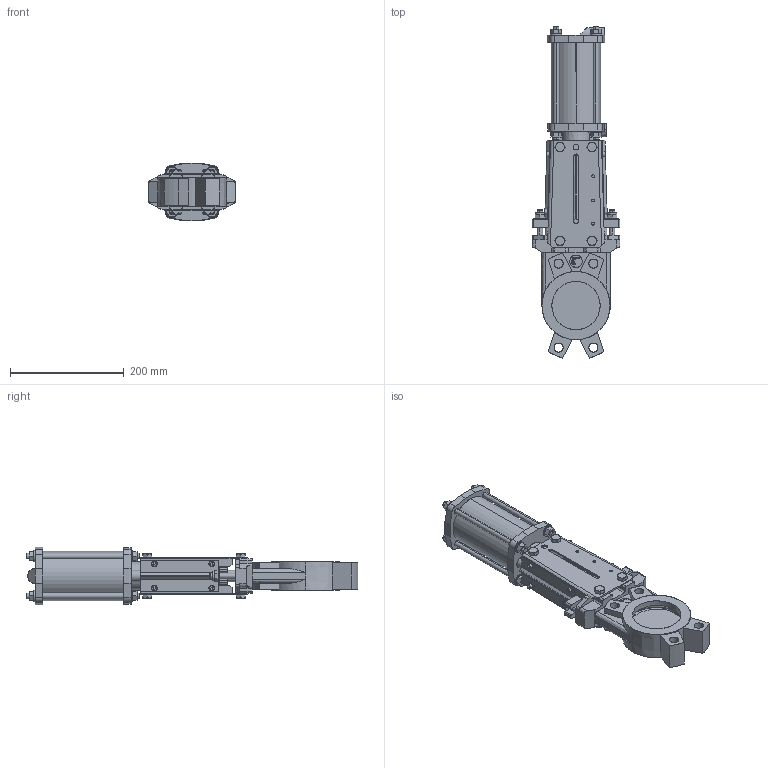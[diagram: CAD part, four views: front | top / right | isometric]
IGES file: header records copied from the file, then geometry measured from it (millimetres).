
Start section: SolidWorks IGES file using analytic representation for surfaces
Global section: file name: D:\part\3D Projects\VG-PNEUMATIC ACTUATOR(DN50-600)\VG P DN80\VG P DN80.IGS; native system: SolidWorks 2009; preprocessor: SolidWorks 2009; author: zhixin.zheng; date: 100313.104718; units: millimetre
Bounding box: 154 x 584.17 x 102 mm (x, y, z)
Surface area: 419754.3 mm2 (no closed solid volume)
Topology: 0 solids, 0 shells, 1043 faces, 11988 edges, 11988 vertices
Faces by surface type: bspline 608, revolution 435
